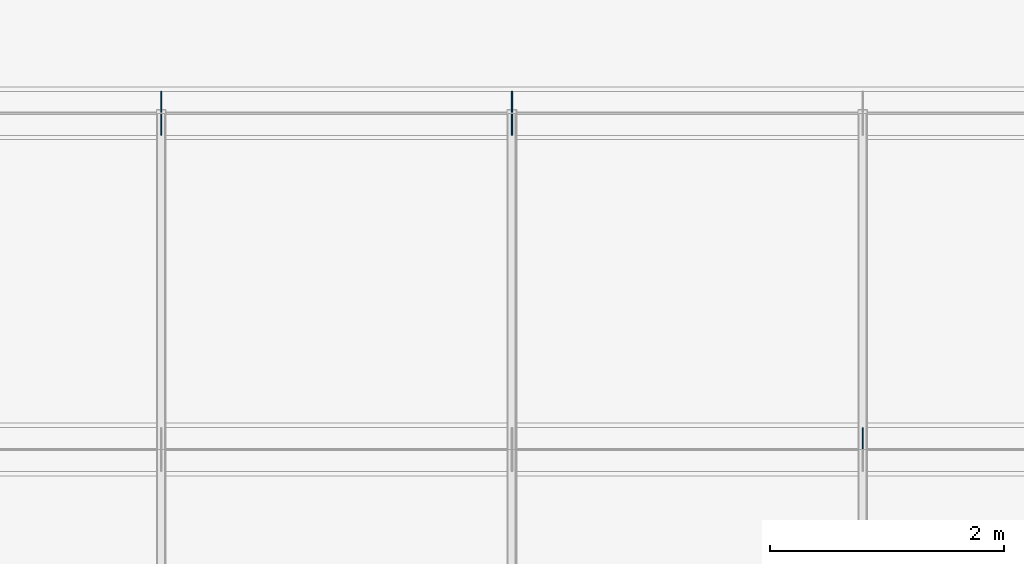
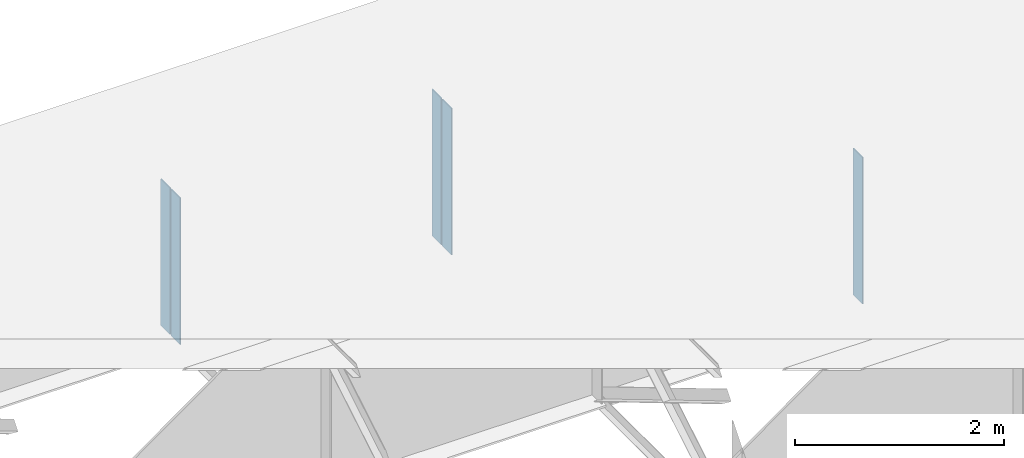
# One storey, part 8 of 10: 5 plates.
"""IFC4 building model written with IfcOpenShell, lengths in metres."""

from ifc_helpers import new_model, si_unit, frame, origin, origin_with_axes, origin_2d_with_axis, place, context, subcontext, project, spatial, rectangle, extrude, element, save


model = new_model("IFC4")

# Units and contexts
model_context = context("Model", 3, precision=1e-05, world=origin())
body_context = subcontext(model_context, "Body", "Model", "MODEL_VIEW")
ifc_project = project(units=[si_unit("LENGTHUNIT", "METRE"), si_unit("AREAUNIT", "SQUARE_METRE"), si_unit("VOLUMEUNIT", "CUBIC_METRE"), si_unit("PLANEANGLEUNIT", "RADIAN")], contexts=[model_context])

# Site, building, storey
site_placement = place(None, origin_with_axes())
site = spatial("IfcSite", under=ifc_project, at=site_placement, Name="Default Site")
building_placement = place(site_placement, origin_with_axes())
building = spatial("IfcBuilding", under=site, at=building_placement, Name="Bridge Structure")
storey_placement = place(building_placement, origin_with_axes())
storey = spatial("IfcBuildingStorey", under=building, at=storey_placement, Name="Superstructure")

# Plates
for number, where, z_axis, x_axis, name in (
    (1, (15.0, 0.09775, -0.8575), (0.0, 0.0, 1.0), (1.0, 0.0, 0.0), "Intermediate Stiffener 2"),
    (2, (9.0, 2.97275, -0.8575), (0.0, 0.0, 1.0), (1.0, 0.0, 0.0), "Intermediate Stiffener 3"),
    (3, (9.0, 2.77725, -0.8575), (0.0, 0.0, 1.0), (1.0, 0.0, 0.0), "Intermediate Stiffener 3"),
    (4, (12.0, 2.97275, -0.8575), (0.0, 0.0, 1.0), (1.0, 0.0, 0.0), "Intermediate Stiffener 3"),
    (5, (12.0, 2.77725, -0.8575), (0.0, 0.0, 1.0), (1.0, 0.0, 0.0), "Intermediate Stiffener 3"),
):
    element("IfcPlate", number, at=place(storey_placement, frame(where, z_axis=z_axis, x_axis=x_axis)), inside=storey, Name=name, context=body_context, shape_type="SweptSolid", body=[
        extrude(rectangle(XDim=0.012, YDim=0.1795, at=origin_2d_with_axis()), origin_with_axes(), (0.0, 0.0, 1.0), 1.715),
    ])

save(model, "model.ifc")
